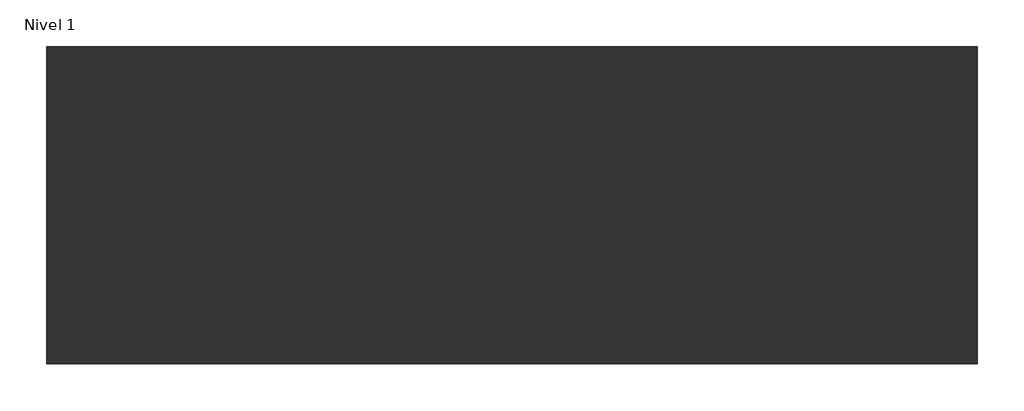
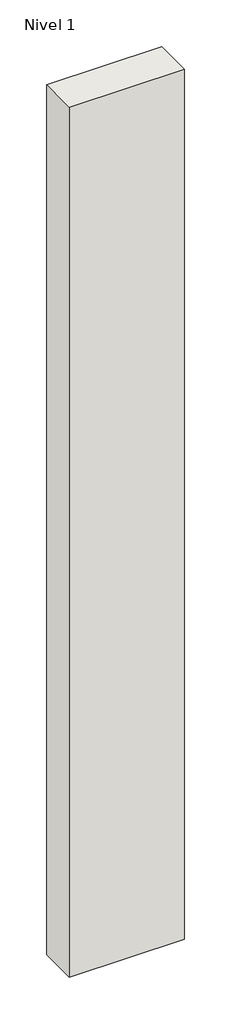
# One storey: 1 wall.
"""IFC4 building model written with IfcOpenShell, lengths in millimetres."""

from ifc_helpers import new_model, si_unit, origin, origin_with_axes, place, context, project, spatial, polyline, outline, extrude, element, save

model = new_model("IFC4")

# Units and contexts
model_context = context("Model", 3, world=origin())
ifc_project = project(units=[si_unit("LENGTHUNIT", "METRE", prefix="MILLI")], contexts=[model_context])

# Site, building, storey
site = spatial("IfcSite", under=ifc_project)
building = spatial("IfcBuilding", under=site)
storey = spatial("IfcBuildingStorey", under=building, Name="Nivel 1", Elevation=0.0)

# Wall
placement = place(None, origin())
element("IfcWall", 1, ObjectType="LC 1/2 pie + aisl. poliuretano + cámara aire no ventilada + yeso", at=placement, inside=storey, context=model_context, shape_type="SweptSolid", body=[
    extrude(outline(polyline([(-3167.1347582, 3486.4505819), (-4167.1347582, 3486.4505819), (-4167.1347582, 3827.4505819), (-3167.1347582, 3827.4505819), (-3167.1347582, 3486.4505819)])), origin_with_axes(), (0.0, 0.0, 1.0), 8000.0),
])

save(model, "model.ifc")
